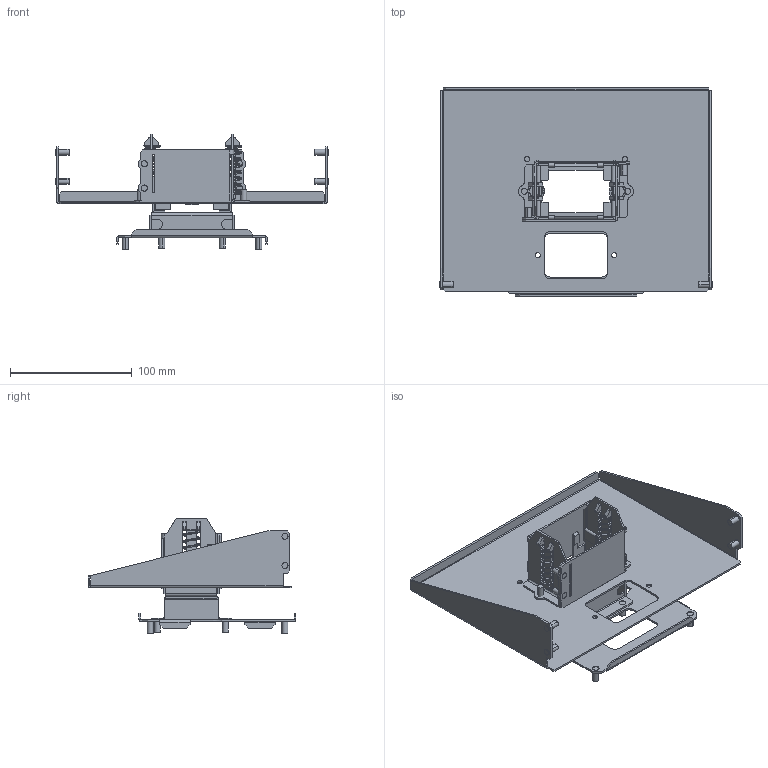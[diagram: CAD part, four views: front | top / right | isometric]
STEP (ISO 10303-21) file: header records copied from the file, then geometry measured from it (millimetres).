
FILE_DESCRIPTION(('CAx-IF Rec.Pracs.---Model Styling and Organization---1.2---2011-12-15','CAx-IF Rec.Pracs.---Geometric and Assembly Validation Properties---4.1---2014-06-16','CAx-IF Rec.Pracs.---PMI Polyline Presentation---2.0---2013-05-24'),'2;1');
FILE_NAME('R5M2W4M2BR35.stp','2021-05-05T12:22:16+03:00',(''),(''),'STEP Interface 4.4 by CT CoreTechnologie','3D_Evolution4.4 by CT CoreTechnologie','');
FILE_SCHEMA(('AUTOMOTIVE_DESIGN { 1 0 10303 214 1 1 1 1 }'));
Length unit declared in the file: millimetre
Products named in the file (9): R5M2W4M2BR35; RB.1621.00.00.0_-00; M5x8-DIN7500C_stright; RB.1567.00.00.0_-01; RB.1571.00.00.0_In prestressed condition - 40 mm; RB.1254.00.00.0_-02; RB.1569.00.00.0_-00; RB.1570.00.00.0; RB.1353.00.00.0_-08
Assembly tree (31 placements, depth 2):
  R5M2W4M2BR35
    RB.1621.00.00.0_-00  x4
    M5x8-DIN7500C_stright  x18
    RB.1567.00.00.0_-01
    RB.1571.00.00.0_In prestressed condition - 40 mm  x2
    RB.1254.00.00.0_-02
    RB.1569.00.00.0_-00  x2
    RB.1570.00.00.0  x2
    RB.1353.00.00.0_-08
Bounding box: 225.1 x 171.15 x 95.4 mm (x, y, z)
Surface area: 167884.4 mm2 (no closed solid volume)
Topology: 0 solids, 39 shells, 732 faces, 1873 edges, 1219 vertices
Faces by surface type: plane 511, cylinder 201, bspline 20
Entity records: 16057 total; most frequent: CARTESIAN_POINT 3870, ORIENTED_EDGE 2374, DIRECTION 2365, EDGE_CURVE 1187, VECTOR 921, LINE 921, VERTEX_POINT 767, AXIS2_PLACEMENT_3D 722
